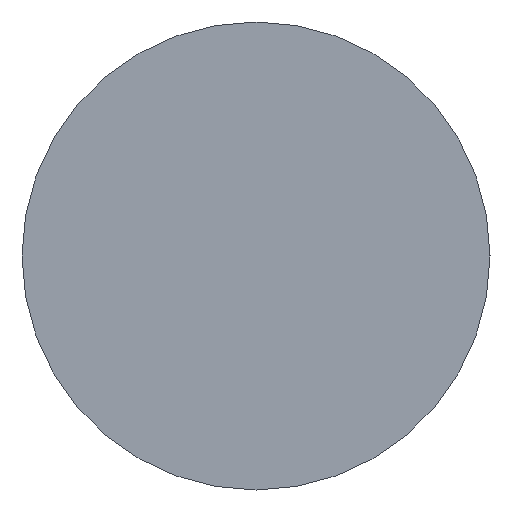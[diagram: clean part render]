
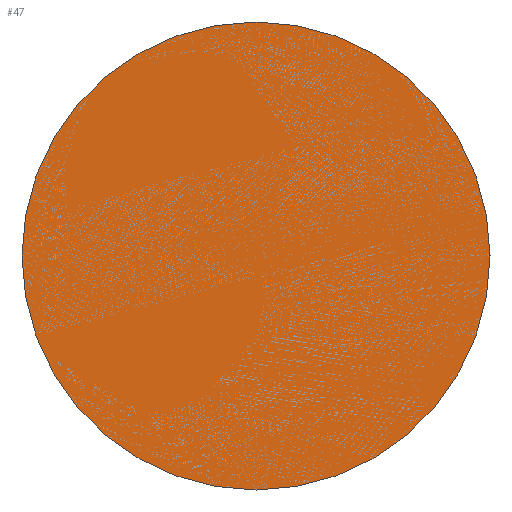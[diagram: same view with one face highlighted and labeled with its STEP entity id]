
A CAD part, left-side view. The second image highlights one B-rep face of the part: STEP entity #47.
In plain terms, the highlighted planar face has unit normal (-1, 0, 0).
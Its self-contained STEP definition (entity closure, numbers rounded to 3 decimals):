
#47 = ADVANCED_FACE('',(#48),#59,.F.);
#48 = FACE_BOUND('',#49,.T.);
#49 = EDGE_LOOP('',(#50));
#50 = ORIENTED_EDGE('',*,*,#51,.F.);
#51 = EDGE_CURVE('',#52,#52,#54,.T.);
#52 = VERTEX_POINT('',#53);
#53 = CARTESIAN_POINT('',(0.,4.,0.));
#54 = CIRCLE('',#55,4.);
#55 = AXIS2_PLACEMENT_3D('',#56,#57,#58);
#56 = CARTESIAN_POINT('',(0.,0.,0.));
#57 = DIRECTION('',(1.,0.,0.));
#58 = DIRECTION('',(0.,1.,0.));
#59 = PLANE('',#60);
#60 = AXIS2_PLACEMENT_3D('',#61,#62,#63);
#61 = CARTESIAN_POINT('',(0.,0.,0.));
#62 = DIRECTION('',(1.,0.,0.));
#63 = DIRECTION('',(0.,1.,0.));
